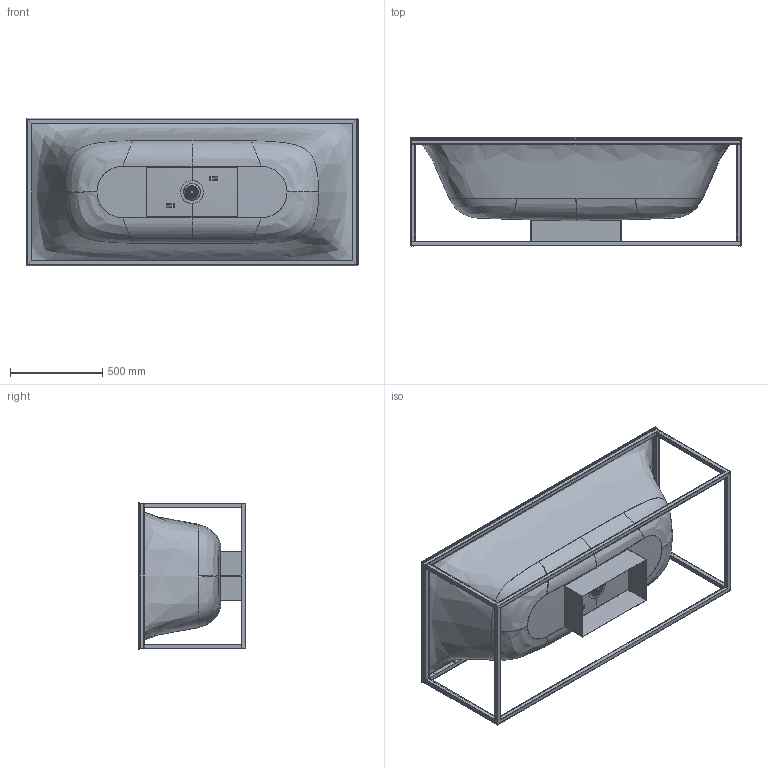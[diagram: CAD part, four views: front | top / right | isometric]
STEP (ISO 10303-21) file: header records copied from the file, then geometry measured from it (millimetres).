
FILE_DESCRIPTION((' '),'2;1');
FILE_NAME( '177da3b083c0d2c3.stp', '2021-02-25T18:27:17', (' '), ('--- Datakit www.datakit.com---'), ' Datakit CrossCadWare V2021.1 Jan 6 2021', 'DATAKIT 2021 (c)', ' ');
FILE_SCHEMA(('CONFIG_CONTROL_DESIGN'));
Length unit declared in the file: millimetre
Products named in the file (1): 173fcc6cb6d9a3c3
Bounding box: 1799 x 585 x 799 mm (x, y, z)
Volume: 3451319.2 mm3; surface area: 7467668 mm2
Topology: 14 solids, 20 shells, 884 faces, 2142 edges, 1271 vertices
Faces by surface type: bspline 363, plane 314, cylinder 125, torus 54, cone 10, offset 10, sphere 8
Full cylindrical faces by diameter (mm): 5 x8, 8.6 x4, 52 x1
Entity records: 58833 total; most frequent: CARTESIAN_POINT 41195, ORIENTED_EDGE 4154, DIRECTION 2533, EDGE_CURVE 2077, VERTEX_POINT 1269, EDGE_LOOP 994, VECTOR 889, LINE 889
